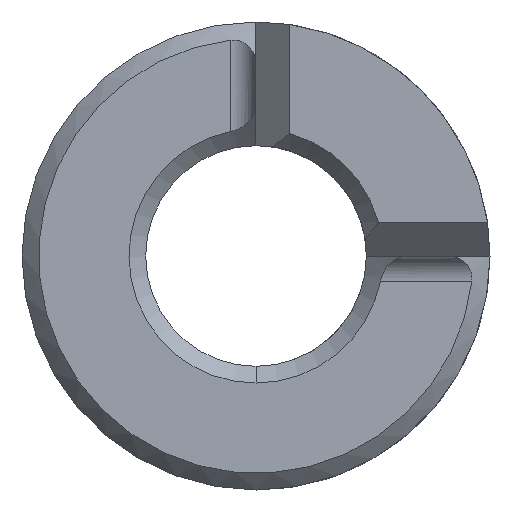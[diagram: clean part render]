
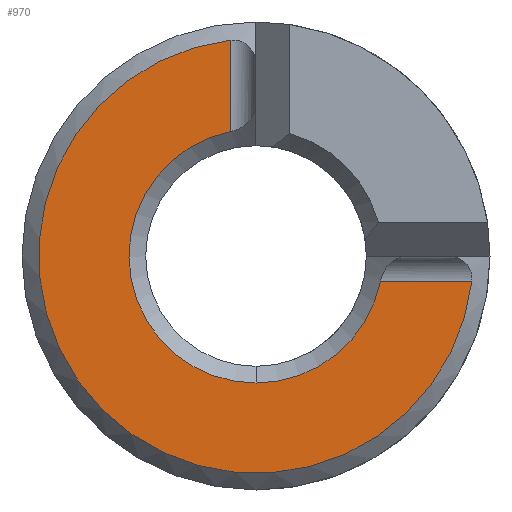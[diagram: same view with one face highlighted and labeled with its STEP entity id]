
A CAD part, front view. The second image highlights one B-rep face of the part: STEP entity #970.
In plain terms, the highlighted planar face has unit normal (0, -1, 0).
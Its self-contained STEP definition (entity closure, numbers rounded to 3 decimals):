
#75 = AXIS2_PLACEMENT_3D ( 'NONE', #955, #877, #797 ) ;
#82 = ORIENTED_EDGE ( 'NONE', *, *, #590, .T. ) ;
#139 = EDGE_LOOP ( 'NONE', ( #350, #82, #417, #804, #201 ) ) ;
#153 = DIRECTION ( 'NONE',  ( 0., 0., 1. ) ) ;
#156 = CIRCLE ( 'NONE', #75, 0.76 ) ;
#163 = PLANE ( 'NONE',  #572 ) ;
#182 = EDGE_CURVE ( 'NONE', #746, #601, #212, .T. ) ;
#194 = DIRECTION ( 'NONE',  ( -1., 0., 0. ) ) ;
#201 = ORIENTED_EDGE ( 'NONE', *, *, #640, .T. ) ;
#211 = LINE ( 'NONE', #263, #957 ) ;
#212 = CIRCLE ( 'NONE', #968, 1.3 ) ;
#263 = CARTESIAN_POINT ( 'NONE',  ( -0.15, -1., 1.3 ) ) ;
#308 = VERTEX_POINT ( 'NONE', #708 ) ;
#337 = DIRECTION ( 'NONE',  ( 0., 0., 1. ) ) ;
#350 = ORIENTED_EDGE ( 'NONE', *, *, #182, .T. ) ;
#417 = ORIENTED_EDGE ( 'NONE', *, *, #565, .T. ) ;
#452 = CARTESIAN_POINT ( 'NONE',  ( 0., -1., 0. ) ) ;
#458 = CARTESIAN_POINT ( 'NONE',  ( -0.15, -1., 0.745 ) ) ;
#492 = VERTEX_POINT ( 'NONE', #791 ) ;
#495 = CARTESIAN_POINT ( 'NONE',  ( 0.76, -1., -0.15 ) ) ;
#509 = FACE_OUTER_BOUND ( 'NONE', #139, .T. ) ;
#511 = LINE ( 'NONE', #495, #753 ) ;
#527 = DIRECTION ( 'NONE',  ( 0., -1., 0. ) ) ;
#548 = EDGE_CURVE ( 'NONE', #492, #915, #900, .T. ) ;
#560 = AXIS2_PLACEMENT_3D ( 'NONE', #655, #574, #648 ) ;
#565 = EDGE_CURVE ( 'NONE', #308, #492, #156, .T. ) ;
#572 = AXIS2_PLACEMENT_3D ( 'NONE', #770, #934, #864 ) ;
#574 = DIRECTION ( 'NONE',  ( 0., 1., 0. ) ) ;
#590 = EDGE_CURVE ( 'NONE', #601, #308, #511, .T. ) ;
#591 = CARTESIAN_POINT ( 'NONE',  ( -0.15, -1., 1.291 ) ) ;
#601 = VERTEX_POINT ( 'NONE', #884 ) ;
#640 = EDGE_CURVE ( 'NONE', #915, #746, #211, .T. ) ;
#648 = DIRECTION ( 'NONE',  ( 0., 0., 1. ) ) ;
#655 = CARTESIAN_POINT ( 'NONE',  ( 0., -1., 0. ) ) ;
#708 = CARTESIAN_POINT ( 'NONE',  ( 0.745, -1., -0.15 ) ) ;
#746 = VERTEX_POINT ( 'NONE', #591 ) ;
#753 = VECTOR ( 'NONE', #194, 1000. ) ;
#770 = CARTESIAN_POINT ( 'NONE',  ( 0., -1., 0. ) ) ;
#791 = CARTESIAN_POINT ( 'NONE',  ( 0., -1., -0.76 ) ) ;
#797 = DIRECTION ( 'NONE',  ( 0., 0., 1. ) ) ;
#804 = ORIENTED_EDGE ( 'NONE', *, *, #548, .T. ) ;
#864 = DIRECTION ( 'NONE',  ( 0., 0., 1. ) ) ;
#877 = DIRECTION ( 'NONE',  ( 0., 1., 0. ) ) ;
#884 = CARTESIAN_POINT ( 'NONE',  ( 1.291, -1., -0.15 ) ) ;
#900 = CIRCLE ( 'NONE', #560, 0.76 ) ;
#915 = VERTEX_POINT ( 'NONE', #458 ) ;
#934 = DIRECTION ( 'NONE',  ( 0., 1., 0. ) ) ;
#955 = CARTESIAN_POINT ( 'NONE',  ( 0., -1., 0. ) ) ;
#957 = VECTOR ( 'NONE', #337, 1000. ) ;
#968 = AXIS2_PLACEMENT_3D ( 'NONE', #452, #527, #153 ) ;
#970 = ADVANCED_FACE ( 'NONE', ( #509 ), #163, .F. ) ;
